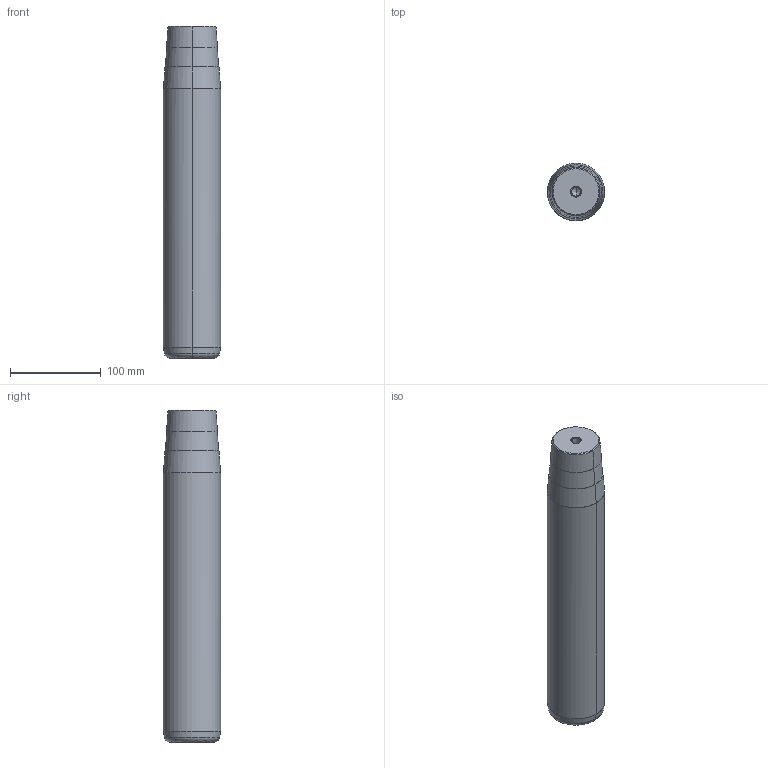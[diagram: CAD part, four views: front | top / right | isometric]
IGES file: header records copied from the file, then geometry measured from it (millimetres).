
Start section: START RECORD GO HERE.
Global section: file name: 722-63x315x366.igs; native system: DASSAULT SYSTEMES CATIA V5 R20 - www.3ds.com; preprocessor: CATIA Version 5 Release 20 ; author: Utente; organization: NB04-ASUS; date: 20210107.202122; units: millimetre
Bounding box: 63 x 63 x 366 mm (x, y, z)
Surface area: 77687.2 mm2 (no closed solid volume)
Topology: 0 solids, 0 shells, 32 faces, 192 edges, 188 vertices
Faces by surface type: revolution 30, plane 2
